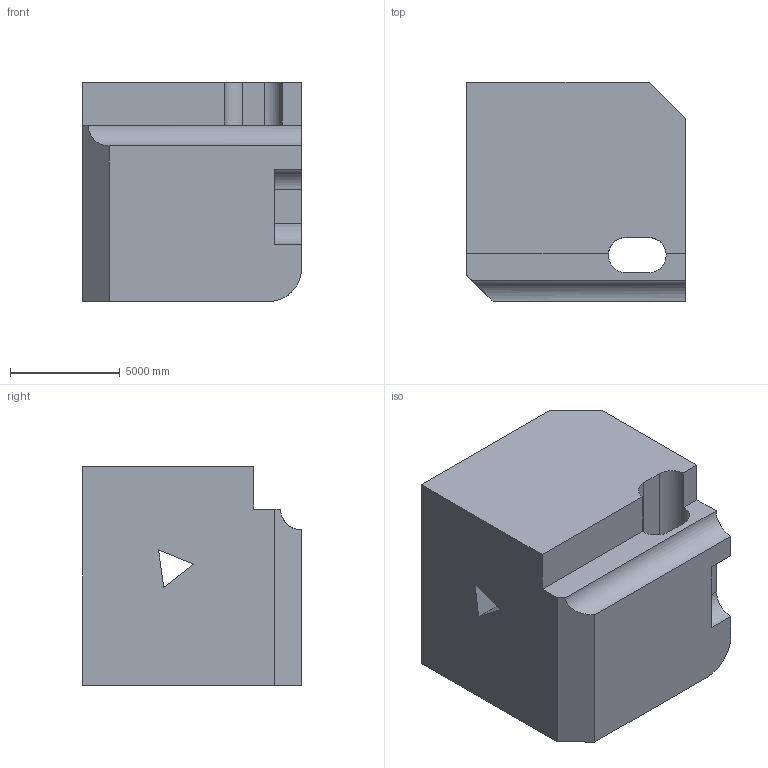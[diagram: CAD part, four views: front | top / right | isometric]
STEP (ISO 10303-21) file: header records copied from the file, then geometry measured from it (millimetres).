
FILE_DESCRIPTION (( 'STEP AP203' ), '1' );
FILE_NAME ('1897.STEP', '2022-08-26T13:32:55', ( 'user' ), ( '' ), 'SwSTEP 2.0', 'SolidWorks 2021', '' );
FILE_SCHEMA (( 'CONFIG_CONTROL_DESIGN' ));
Length unit declared in the file: centimetre
Products named in the file (1): 1897
Bounding box: 10000 x 10000 x 10000 mm (x, y, z)
Volume: 870664314731 mm3; surface area: 680310083 mm2
Topology: 1 solids, 1 shells, 31 faces, 87 edges, 58 vertices
Faces by surface type: plane 20, cylinder 11
Entity records: 1196 total; most frequent: CARTESIAN_POINT 292, ORIENTED_EDGE 174, DIRECTION 171, EDGE_CURVE 87, VECTOR 61, LINE 61, VERTEX_POINT 58, AXIS2_PLACEMENT_3D 55
